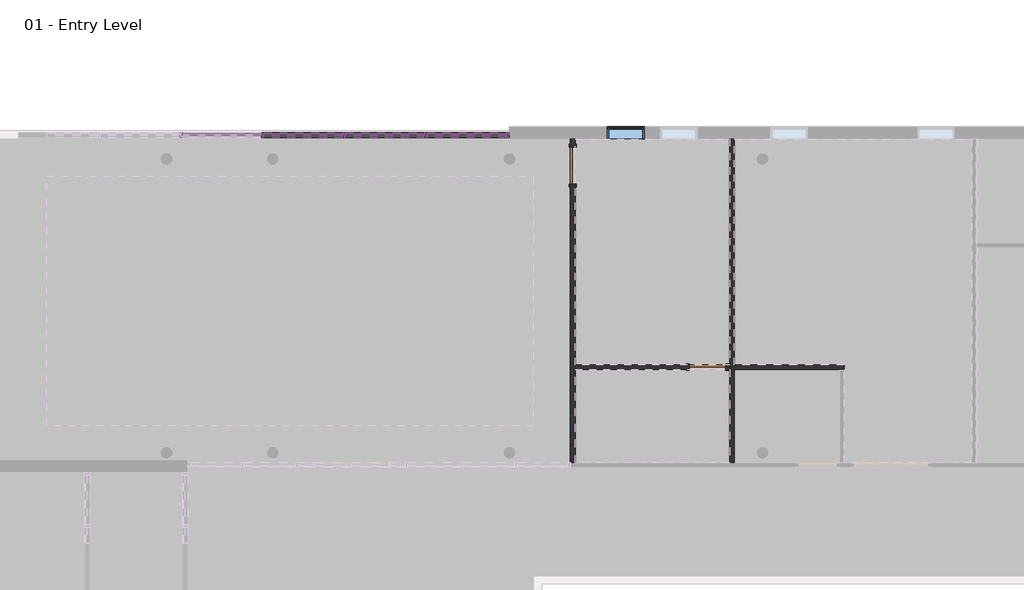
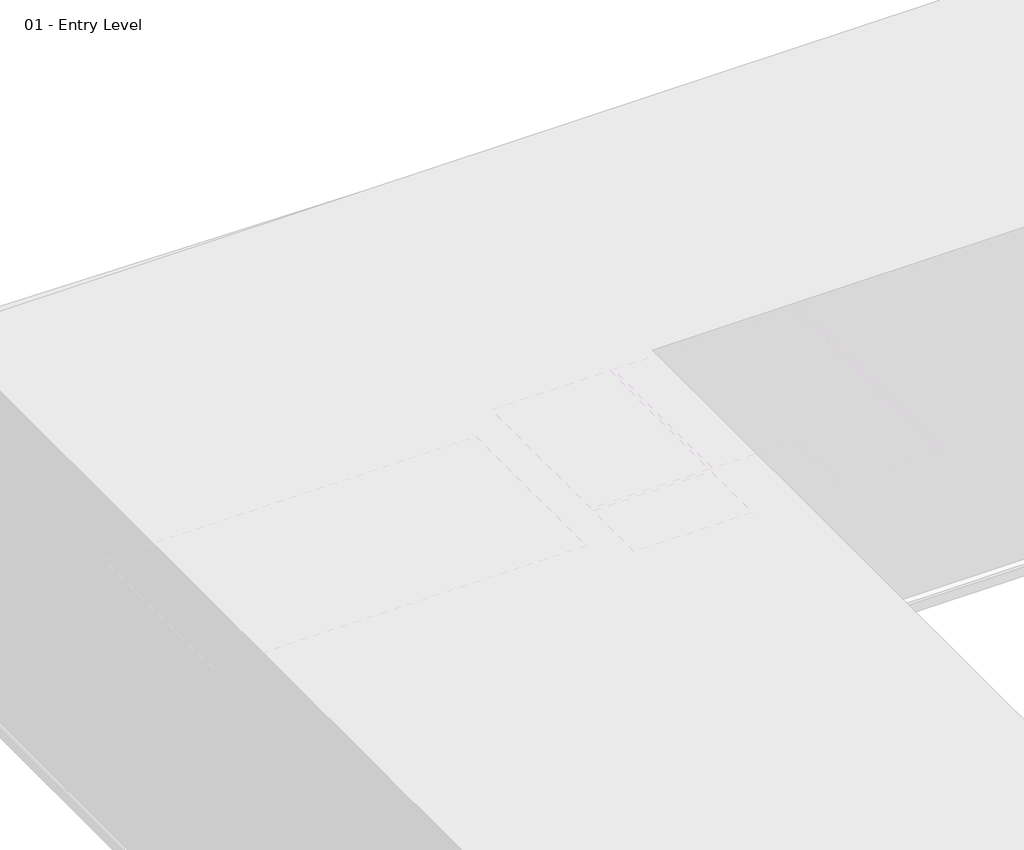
# One storey, part 29 of 35: 81 members, 36 plates, 3 walls, 2 doors, 1 window.
"""IFC4 building model written with IfcOpenShell, lengths in millimetres."""

from ifc_helpers import new_model, si_unit, origin, place, context, project, spatial, faceted_brep, transform, mapped, element, save
from components import door_e5f9f3c4, member_2b49869a, member_75074519, member_391b434c, member_9e90ae50, system_panel_glazed_1b9d6098, system_panel_glazed_70da479d, system_panel_solid_b376696c, system_panel_solid_77e8b053, window_dfee3f32

model = new_model("IFC4")

# Units and contexts
model_context = context("Model", 3, world=origin())
ifc_project = project(units=[si_unit("LENGTHUNIT", "METRE", prefix="MILLI")], contexts=[model_context])

# Site, building, storey
site = spatial("IfcSite", under=ifc_project)
building = spatial("IfcBuilding", under=site)
storey = spatial("IfcBuildingStorey", under=building, Name="01 - Entry Level", Elevation=0.0)

# Doors
placement = place(None, origin())
door_shape = door_e5f9f3c4(model_context)
element("IfcDoor", 1, ObjectType="Single-Flush : 36\" x 84\"", at=placement, inside=storey, context=model_context, shape_type="MappedRepresentation", body=[
    mapped(door_shape, transform((21413.1207476, 48047.2, 0.0), x_axis=(1.0, 0.0, 0.0), y_axis=(0.0, 1.0, 0.0), z_axis=(0.0, 0.0, 1.0))),
])
element("IfcDoor", 2, ObjectType="Single-Flush-Dbl Acting : 36\" x 84\"", at=placement, inside=storey, context=model_context, shape_type="MappedRepresentation", body=[
    mapped(door_shape, transform((18060.3207476, 53063.7, 0.0), x_axis=(0.0, 1.0, 0.0), y_axis=(-1.0, 0.0, 0.0), z_axis=(0.0, 0.0, 1.0))),
])

# Members
member_shape = member_2b49869a(model_context)
element("IfcMember", 3, ObjectType="Rectangular Mullion : 2.5\" x 5\" rectangular", at=placement, inside=storey, context=model_context, shape_type="MappedRepresentation", body=[
    mapped(member_shape, transform((16434.7207476, 53825.7, 9753.6), x_axis=(-1.0, 0.0, 0.0), y_axis=(0.0, 1.0, 0.0), z_axis=(0.0, 0.0, -1.0))),
])
element("IfcMember", 4, ObjectType="Rectangular Mullion : 2.5\" x 5\" rectangular", at=placement, inside=storey, context=model_context, shape_type="MappedRepresentation", body=[
    mapped(member_shape, transform((14402.7207476, 53825.7, 9753.6), x_axis=(-1.0, 0.0, 0.0), y_axis=(0.0, 1.0, 0.0), z_axis=(0.0, 0.0, -1.0))),
])
element("IfcMember", 5, ObjectType="Rectangular Mullion : 2.5\" x 5\" rectangular", at=placement, inside=storey, context=model_context, shape_type="MappedRepresentation", body=[
    mapped(member_shape, transform((12370.7207476, 53825.7, 9753.6), x_axis=(-1.0, 0.0, 0.0), y_axis=(0.0, 1.0, 0.0), z_axis=(0.0, 0.0, -1.0))),
])
element("IfcMember", 6, ObjectType="Rectangular Mullion : 2.5\" x 5\" rectangular", at=placement, inside=storey, context=model_context, shape_type="MappedRepresentation", body=[
    mapped(member_shape, transform((10338.7207476, 53825.7, 9753.6), x_axis=(-1.0, 0.0, 0.0), y_axis=(0.0, 1.0, 0.0), z_axis=(0.0, 0.0, -1.0))),
])
element("IfcMember", 7, ObjectType="Rectangular Mullion : 2.5\" x 5\" rectangular", at=placement, inside=storey, context=model_context, shape_type="MappedRepresentation", body=[
    mapped(member_shape, transform((8306.7207476, 53825.7, 9753.6), x_axis=(-1.0, 0.0, 0.0), y_axis=(0.0, 1.0, 0.0), z_axis=(0.0, 0.0, -1.0))),
])
member_2_shape = member_75074519(model_context)
element("IfcMember", 8, ObjectType="Rectangular Mullion : 2.5\" x 5\" rectangular", at=placement, inside=storey, context=model_context, shape_type="MappedRepresentation", body=[
    mapped(member_2_shape, transform((16485.5207476, 53825.7, 10972.8), x_axis=(1.0, 0.0, 0.0), y_axis=(0.0, 1.0, 0.0), z_axis=(0.0, 0.0, 1.0))),
])
member_3_shape = member_391b434c(model_context)
element("IfcMember", 9, ObjectType="Rectangular Mullion : 2.5\" x 5\" rectangular", at=placement, inside=storey, context=model_context, shape_type="MappedRepresentation", body=[
    mapped(member_3_shape, transform((14434.4707476, 53825.7, 10972.8), x_axis=(0.0, 0.0, 1.0), y_axis=(0.0, 1.0, 0.0), z_axis=(-1.0, 0.0, 0.0))),
])
element("IfcMember", 10, ObjectType="Rectangular Mullion : 2.5\" x 5\" rectangular", at=placement, inside=storey, context=model_context, shape_type="MappedRepresentation", body=[
    mapped(member_3_shape, transform((12402.4707476, 53825.7, 10972.8), x_axis=(0.0, 0.0, 1.0), y_axis=(0.0, 1.0, 0.0), z_axis=(-1.0, 0.0, 0.0))),
])
element("IfcMember", 11, ObjectType="Rectangular Mullion : 2.5\" x 5\" rectangular", at=placement, inside=storey, context=model_context, shape_type="MappedRepresentation", body=[
    mapped(member_3_shape, transform((10370.4707476, 53825.7, 10972.8), x_axis=(0.0, 0.0, 1.0), y_axis=(0.0, 1.0, 0.0), z_axis=(-1.0, 0.0, 0.0))),
])
element("IfcMember", 12, ObjectType="Rectangular Mullion : 2.5\" x 5\" rectangular", at=placement, inside=storey, context=model_context, shape_type="MappedRepresentation", body=[
    mapped(member_3_shape, transform((16402.9707476, 53825.7, 0.0), x_axis=(0.0, 0.0, -1.0), y_axis=(0.0, 1.0, 0.0), z_axis=(1.0, 0.0, 0.0))),
])
element("IfcMember", 13, ObjectType="Rectangular Mullion : 2.5\" x 5\" rectangular", at=placement, inside=storey, context=model_context, shape_type="MappedRepresentation", body=[
    mapped(member_3_shape, transform((14370.9707476, 53825.7, 0.0), x_axis=(0.0, 0.0, -1.0), y_axis=(0.0, 1.0, 0.0), z_axis=(1.0, 0.0, 0.0))),
])
element("IfcMember", 14, ObjectType="Rectangular Mullion : 2.5\" x 5\" rectangular", at=placement, inside=storey, context=model_context, shape_type="MappedRepresentation", body=[
    mapped(member_3_shape, transform((12338.9707476, 53825.7, 0.0), x_axis=(0.0, 0.0, -1.0), y_axis=(0.0, 1.0, 0.0), z_axis=(1.0, 0.0, 0.0))),
])
element("IfcMember", 15, ObjectType="Rectangular Mullion : 2.5\" x 5\" rectangular", at=placement, inside=storey, context=model_context, shape_type="MappedRepresentation", body=[
    mapped(member_3_shape, transform((10306.9707476, 53825.7, 0.0), x_axis=(0.0, 0.0, -1.0), y_axis=(0.0, 1.0, 0.0), z_axis=(1.0, 0.0, 0.0))),
])
member_4_shape = member_9e90ae50(model_context)
element("IfcMember", 16, ObjectType="Rectangular Mullion : 2.5\" x 5\" rectangular", at=placement, inside=storey, context=model_context, shape_type="MappedRepresentation", body=[
    mapped(member_4_shape, transform((14434.4707476, 53825.7, 1219.2), x_axis=(0.0, 0.0, 1.0), y_axis=(0.0, 1.0, 0.0), z_axis=(-1.0, 0.0, 0.0))),
])
element("IfcMember", 17, ObjectType="Rectangular Mullion : 2.5\" x 5\" rectangular", at=placement, inside=storey, context=model_context, shape_type="MappedRepresentation", body=[
    mapped(member_4_shape, transform((12402.4707476, 53825.7, 1219.2), x_axis=(0.0, 0.0, 1.0), y_axis=(0.0, 1.0, 0.0), z_axis=(-1.0, 0.0, 0.0))),
])
element("IfcMember", 18, ObjectType="Rectangular Mullion : 2.5\" x 5\" rectangular", at=placement, inside=storey, context=model_context, shape_type="MappedRepresentation", body=[
    mapped(member_4_shape, transform((10370.4707476, 53825.7, 1219.2), x_axis=(0.0, 0.0, 1.0), y_axis=(0.0, 1.0, 0.0), z_axis=(-1.0, 0.0, 0.0))),
])
element("IfcMember", 19, ObjectType="Rectangular Mullion : 2.5\" x 5\" rectangular", at=placement, inside=storey, context=model_context, shape_type="MappedRepresentation", body=[
    mapped(member_4_shape, transform((14434.4707476, 53825.7, 2438.4), x_axis=(0.0, 0.0, 1.0), y_axis=(0.0, 1.0, 0.0), z_axis=(-1.0, 0.0, 0.0))),
])
element("IfcMember", 20, ObjectType="Rectangular Mullion : 2.5\" x 5\" rectangular", at=placement, inside=storey, context=model_context, shape_type="MappedRepresentation", body=[
    mapped(member_4_shape, transform((12402.4707476, 53825.7, 2438.4), x_axis=(0.0, 0.0, 1.0), y_axis=(0.0, 1.0, 0.0), z_axis=(-1.0, 0.0, 0.0))),
])
element("IfcMember", 21, ObjectType="Rectangular Mullion : 2.5\" x 5\" rectangular", at=placement, inside=storey, context=model_context, shape_type="MappedRepresentation", body=[
    mapped(member_4_shape, transform((10370.4707476, 53825.7, 2438.4), x_axis=(0.0, 0.0, 1.0), y_axis=(0.0, 1.0, 0.0), z_axis=(-1.0, 0.0, 0.0))),
])
element("IfcMember", 22, ObjectType="Rectangular Mullion : 2.5\" x 5\" rectangular", at=placement, inside=storey, context=model_context, shape_type="MappedRepresentation", body=[
    mapped(member_4_shape, transform((14434.4707476, 53825.7, 3657.6), x_axis=(0.0, 0.0, 1.0), y_axis=(0.0, 1.0, 0.0), z_axis=(-1.0, 0.0, 0.0))),
])
element("IfcMember", 23, ObjectType="Rectangular Mullion : 2.5\" x 5\" rectangular", at=placement, inside=storey, context=model_context, shape_type="MappedRepresentation", body=[
    mapped(member_4_shape, transform((12402.4707476, 53825.7, 3657.6), x_axis=(0.0, 0.0, 1.0), y_axis=(0.0, 1.0, 0.0), z_axis=(-1.0, 0.0, 0.0))),
])
element("IfcMember", 24, ObjectType="Rectangular Mullion : 2.5\" x 5\" rectangular", at=placement, inside=storey, context=model_context, shape_type="MappedRepresentation", body=[
    mapped(member_4_shape, transform((10370.4707476, 53825.7, 3657.6), x_axis=(0.0, 0.0, 1.0), y_axis=(0.0, 1.0, 0.0), z_axis=(-1.0, 0.0, 0.0))),
])
element("IfcMember", 25, ObjectType="Rectangular Mullion : 2.5\" x 5\" rectangular", at=placement, inside=storey, context=model_context, shape_type="MappedRepresentation", body=[
    mapped(member_4_shape, transform((14434.4707476, 53825.7, 4876.8), x_axis=(0.0, 0.0, 1.0), y_axis=(0.0, 1.0, 0.0), z_axis=(-1.0, 0.0, 0.0))),
])
element("IfcMember", 26, ObjectType="Rectangular Mullion : 2.5\" x 5\" rectangular", at=placement, inside=storey, context=model_context, shape_type="MappedRepresentation", body=[
    mapped(member_4_shape, transform((12402.4707476, 53825.7, 4876.8), x_axis=(0.0, 0.0, 1.0), y_axis=(0.0, 1.0, 0.0), z_axis=(-1.0, 0.0, 0.0))),
])
element("IfcMember", 27, ObjectType="Rectangular Mullion : 2.5\" x 5\" rectangular", at=placement, inside=storey, context=model_context, shape_type="MappedRepresentation", body=[
    mapped(member_4_shape, transform((10370.4707476, 53825.7, 4876.8), x_axis=(0.0, 0.0, 1.0), y_axis=(0.0, 1.0, 0.0), z_axis=(-1.0, 0.0, 0.0))),
])
element("IfcMember", 28, ObjectType="Rectangular Mullion : 2.5\" x 5\" rectangular", at=placement, inside=storey, context=model_context, shape_type="MappedRepresentation", body=[
    mapped(member_4_shape, transform((14434.4707476, 53825.7, 6096.0), x_axis=(0.0, 0.0, 1.0), y_axis=(0.0, 1.0, 0.0), z_axis=(-1.0, 0.0, 0.0))),
])
element("IfcMember", 29, ObjectType="Rectangular Mullion : 2.5\" x 5\" rectangular", at=placement, inside=storey, context=model_context, shape_type="MappedRepresentation", body=[
    mapped(member_4_shape, transform((12402.4707476, 53825.7, 6096.0), x_axis=(0.0, 0.0, 1.0), y_axis=(0.0, 1.0, 0.0), z_axis=(-1.0, 0.0, 0.0))),
])
element("IfcMember", 30, ObjectType="Rectangular Mullion : 2.5\" x 5\" rectangular", at=placement, inside=storey, context=model_context, shape_type="MappedRepresentation", body=[
    mapped(member_4_shape, transform((10370.4707476, 53825.7, 6096.0), x_axis=(0.0, 0.0, 1.0), y_axis=(0.0, 1.0, 0.0), z_axis=(-1.0, 0.0, 0.0))),
])
element("IfcMember", 31, ObjectType="Rectangular Mullion : 2.5\" x 5\" rectangular", at=placement, inside=storey, context=model_context, shape_type="MappedRepresentation", body=[
    mapped(member_4_shape, transform((14434.4707476, 53825.7, 7315.2), x_axis=(0.0, 0.0, 1.0), y_axis=(0.0, 1.0, 0.0), z_axis=(-1.0, 0.0, 0.0))),
])
element("IfcMember", 32, ObjectType="Rectangular Mullion : 2.5\" x 5\" rectangular", at=placement, inside=storey, context=model_context, shape_type="MappedRepresentation", body=[
    mapped(member_4_shape, transform((12402.4707476, 53825.7, 7315.2), x_axis=(0.0, 0.0, 1.0), y_axis=(0.0, 1.0, 0.0), z_axis=(-1.0, 0.0, 0.0))),
])
element("IfcMember", 33, ObjectType="Rectangular Mullion : 2.5\" x 5\" rectangular", at=placement, inside=storey, context=model_context, shape_type="MappedRepresentation", body=[
    mapped(member_4_shape, transform((10370.4707476, 53825.7, 7315.2), x_axis=(0.0, 0.0, 1.0), y_axis=(0.0, 1.0, 0.0), z_axis=(-1.0, 0.0, 0.0))),
])
element("IfcMember", 34, ObjectType="Rectangular Mullion : 2.5\" x 5\" rectangular", at=placement, inside=storey, context=model_context, shape_type="MappedRepresentation", body=[
    mapped(member_4_shape, transform((14434.4707476, 53825.7, 8534.4), x_axis=(0.0, 0.0, 1.0), y_axis=(0.0, 1.0, 0.0), z_axis=(-1.0, 0.0, 0.0))),
])
element("IfcMember", 35, ObjectType="Rectangular Mullion : 2.5\" x 5\" rectangular", at=placement, inside=storey, context=model_context, shape_type="MappedRepresentation", body=[
    mapped(member_4_shape, transform((12402.4707476, 53825.7, 8534.4), x_axis=(0.0, 0.0, 1.0), y_axis=(0.0, 1.0, 0.0), z_axis=(-1.0, 0.0, 0.0))),
])
element("IfcMember", 36, ObjectType="Rectangular Mullion : 2.5\" x 5\" rectangular", at=placement, inside=storey, context=model_context, shape_type="MappedRepresentation", body=[
    mapped(member_4_shape, transform((10370.4707476, 53825.7, 8534.4), x_axis=(0.0, 0.0, 1.0), y_axis=(0.0, 1.0, 0.0), z_axis=(-1.0, 0.0, 0.0))),
])
element("IfcMember", 37, ObjectType="Rectangular Mullion : 2.5\" x 5\" rectangular", at=placement, inside=storey, context=model_context, shape_type="MappedRepresentation", body=[
    mapped(member_4_shape, transform((14434.4707476, 53825.7, 9753.6), x_axis=(0.0, 0.0, 1.0), y_axis=(0.0, 1.0, 0.0), z_axis=(-1.0, 0.0, 0.0))),
])
element("IfcMember", 38, ObjectType="Rectangular Mullion : 2.5\" x 5\" rectangular", at=placement, inside=storey, context=model_context, shape_type="MappedRepresentation", body=[
    mapped(member_4_shape, transform((12402.4707476, 53825.7, 9753.6), x_axis=(0.0, 0.0, 1.0), y_axis=(0.0, 1.0, 0.0), z_axis=(-1.0, 0.0, 0.0))),
])
element("IfcMember", 39, ObjectType="Rectangular Mullion : 2.5\" x 5\" rectangular", at=placement, inside=storey, context=model_context, shape_type="MappedRepresentation", body=[
    mapped(member_4_shape, transform((10370.4707476, 53825.7, 9753.6), x_axis=(0.0, 0.0, 1.0), y_axis=(0.0, 1.0, 0.0), z_axis=(-1.0, 0.0, 0.0))),
])
element("IfcMember", 40, ObjectType="Rectangular Mullion : 2.5\" x 5\" rectangular", at=placement, inside=storey, context=model_context, shape_type="MappedRepresentation", body=[
    mapped(member_shape, transform((16434.7207476, 53825.7, 0.0), x_axis=(-1.0, 0.0, 0.0), y_axis=(0.0, 1.0, 0.0), z_axis=(0.0, 0.0, -1.0))),
])
element("IfcMember", 41, ObjectType="Rectangular Mullion : 2.5\" x 5\" rectangular", at=placement, inside=storey, context=model_context, shape_type="MappedRepresentation", body=[
    mapped(member_shape, transform((14402.7207476, 53825.7, 0.0), x_axis=(-1.0, 0.0, 0.0), y_axis=(0.0, 1.0, 0.0), z_axis=(0.0, 0.0, -1.0))),
])
element("IfcMember", 42, ObjectType="Rectangular Mullion : 2.5\" x 5\" rectangular", at=placement, inside=storey, context=model_context, shape_type="MappedRepresentation", body=[
    mapped(member_shape, transform((12370.7207476, 53825.7, 0.0), x_axis=(-1.0, 0.0, 0.0), y_axis=(0.0, 1.0, 0.0), z_axis=(0.0, 0.0, -1.0))),
])
element("IfcMember", 43, ObjectType="Rectangular Mullion : 2.5\" x 5\" rectangular", at=placement, inside=storey, context=model_context, shape_type="MappedRepresentation", body=[
    mapped(member_shape, transform((10338.7207476, 53825.7, 0.0), x_axis=(-1.0, 0.0, 0.0), y_axis=(0.0, 1.0, 0.0), z_axis=(0.0, 0.0, -1.0))),
])
element("IfcMember", 44, ObjectType="Rectangular Mullion : 2.5\" x 5\" rectangular", at=placement, inside=storey, context=model_context, shape_type="MappedRepresentation", body=[
    mapped(member_shape, transform((16434.7207476, 53825.7, 1219.2), x_axis=(-1.0, 0.0, 0.0), y_axis=(0.0, 1.0, 0.0), z_axis=(0.0, 0.0, -1.0))),
])
element("IfcMember", 45, ObjectType="Rectangular Mullion : 2.5\" x 5\" rectangular", at=placement, inside=storey, context=model_context, shape_type="MappedRepresentation", body=[
    mapped(member_shape, transform((14402.7207476, 53825.7, 1219.2), x_axis=(-1.0, 0.0, 0.0), y_axis=(0.0, 1.0, 0.0), z_axis=(0.0, 0.0, -1.0))),
])
element("IfcMember", 46, ObjectType="Rectangular Mullion : 2.5\" x 5\" rectangular", at=placement, inside=storey, context=model_context, shape_type="MappedRepresentation", body=[
    mapped(member_shape, transform((12370.7207476, 53825.7, 1219.2), x_axis=(-1.0, 0.0, 0.0), y_axis=(0.0, 1.0, 0.0), z_axis=(0.0, 0.0, -1.0))),
])
element("IfcMember", 47, ObjectType="Rectangular Mullion : 2.5\" x 5\" rectangular", at=placement, inside=storey, context=model_context, shape_type="MappedRepresentation", body=[
    mapped(member_shape, transform((10338.7207476, 53825.7, 1219.2), x_axis=(-1.0, 0.0, 0.0), y_axis=(0.0, 1.0, 0.0), z_axis=(0.0, 0.0, -1.0))),
])
element("IfcMember", 48, ObjectType="Rectangular Mullion : 2.5\" x 5\" rectangular", at=placement, inside=storey, context=model_context, shape_type="MappedRepresentation", body=[
    mapped(member_shape, transform((16434.7207476, 53825.7, 2438.4), x_axis=(-1.0, 0.0, 0.0), y_axis=(0.0, 1.0, 0.0), z_axis=(0.0, 0.0, -1.0))),
])
element("IfcMember", 49, ObjectType="Rectangular Mullion : 2.5\" x 5\" rectangular", at=placement, inside=storey, context=model_context, shape_type="MappedRepresentation", body=[
    mapped(member_shape, transform((14402.7207476, 53825.7, 2438.4), x_axis=(-1.0, 0.0, 0.0), y_axis=(0.0, 1.0, 0.0), z_axis=(0.0, 0.0, -1.0))),
])
element("IfcMember", 50, ObjectType="Rectangular Mullion : 2.5\" x 5\" rectangular", at=placement, inside=storey, context=model_context, shape_type="MappedRepresentation", body=[
    mapped(member_shape, transform((12370.7207476, 53825.7, 2438.4), x_axis=(-1.0, 0.0, 0.0), y_axis=(0.0, 1.0, 0.0), z_axis=(0.0, 0.0, -1.0))),
])
element("IfcMember", 51, ObjectType="Rectangular Mullion : 2.5\" x 5\" rectangular", at=placement, inside=storey, context=model_context, shape_type="MappedRepresentation", body=[
    mapped(member_shape, transform((10338.7207476, 53825.7, 2438.4), x_axis=(-1.0, 0.0, 0.0), y_axis=(0.0, 1.0, 0.0), z_axis=(0.0, 0.0, -1.0))),
])
element("IfcMember", 52, ObjectType="Rectangular Mullion : 2.5\" x 5\" rectangular", at=placement, inside=storey, context=model_context, shape_type="MappedRepresentation", body=[
    mapped(member_shape, transform((16434.7207476, 53825.7, 3657.6), x_axis=(-1.0, 0.0, 0.0), y_axis=(0.0, 1.0, 0.0), z_axis=(0.0, 0.0, -1.0))),
])
element("IfcMember", 53, ObjectType="Rectangular Mullion : 2.5\" x 5\" rectangular", at=placement, inside=storey, context=model_context, shape_type="MappedRepresentation", body=[
    mapped(member_shape, transform((14402.7207476, 53825.7, 3657.6), x_axis=(-1.0, 0.0, 0.0), y_axis=(0.0, 1.0, 0.0), z_axis=(0.0, 0.0, -1.0))),
])
element("IfcMember", 54, ObjectType="Rectangular Mullion : 2.5\" x 5\" rectangular", at=placement, inside=storey, context=model_context, shape_type="MappedRepresentation", body=[
    mapped(member_shape, transform((12370.7207476, 53825.7, 3657.6), x_axis=(-1.0, 0.0, 0.0), y_axis=(0.0, 1.0, 0.0), z_axis=(0.0, 0.0, -1.0))),
])
element("IfcMember", 55, ObjectType="Rectangular Mullion : 2.5\" x 5\" rectangular", at=placement, inside=storey, context=model_context, shape_type="MappedRepresentation", body=[
    mapped(member_shape, transform((10338.7207476, 53825.7, 3657.6), x_axis=(-1.0, 0.0, 0.0), y_axis=(0.0, 1.0, 0.0), z_axis=(0.0, 0.0, -1.0))),
])
element("IfcMember", 56, ObjectType="Rectangular Mullion : 2.5\" x 5\" rectangular", at=placement, inside=storey, context=model_context, shape_type="MappedRepresentation", body=[
    mapped(member_shape, transform((16434.7207476, 53825.7, 4876.8), x_axis=(-1.0, 0.0, 0.0), y_axis=(0.0, 1.0, 0.0), z_axis=(0.0, 0.0, -1.0))),
])
element("IfcMember", 57, ObjectType="Rectangular Mullion : 2.5\" x 5\" rectangular", at=placement, inside=storey, context=model_context, shape_type="MappedRepresentation", body=[
    mapped(member_shape, transform((14402.7207476, 53825.7, 4876.8), x_axis=(-1.0, 0.0, 0.0), y_axis=(0.0, 1.0, 0.0), z_axis=(0.0, 0.0, -1.0))),
])
element("IfcMember", 58, ObjectType="Rectangular Mullion : 2.5\" x 5\" rectangular", at=placement, inside=storey, context=model_context, shape_type="MappedRepresentation", body=[
    mapped(member_shape, transform((12370.7207476, 53825.7, 4876.8), x_axis=(-1.0, 0.0, 0.0), y_axis=(0.0, 1.0, 0.0), z_axis=(0.0, 0.0, -1.0))),
])
element("IfcMember", 59, ObjectType="Rectangular Mullion : 2.5\" x 5\" rectangular", at=placement, inside=storey, context=model_context, shape_type="MappedRepresentation", body=[
    mapped(member_shape, transform((10338.7207476, 53825.7, 4876.8), x_axis=(-1.0, 0.0, 0.0), y_axis=(0.0, 1.0, 0.0), z_axis=(0.0, 0.0, -1.0))),
])
element("IfcMember", 60, ObjectType="Rectangular Mullion : 2.5\" x 5\" rectangular", at=placement, inside=storey, context=model_context, shape_type="MappedRepresentation", body=[
    mapped(member_shape, transform((8306.7207476, 53825.7, 4876.8), x_axis=(-1.0, 0.0, 0.0), y_axis=(0.0, 1.0, 0.0), z_axis=(0.0, 0.0, -1.0))),
])
element("IfcMember", 61, ObjectType="Rectangular Mullion : 2.5\" x 5\" rectangular", at=placement, inside=storey, context=model_context, shape_type="MappedRepresentation", body=[
    mapped(member_shape, transform((16434.7207476, 53825.7, 6096.0), x_axis=(-1.0, 0.0, 0.0), y_axis=(0.0, 1.0, 0.0), z_axis=(0.0, 0.0, -1.0))),
])
element("IfcMember", 62, ObjectType="Rectangular Mullion : 2.5\" x 5\" rectangular", at=placement, inside=storey, context=model_context, shape_type="MappedRepresentation", body=[
    mapped(member_shape, transform((14402.7207476, 53825.7, 6096.0), x_axis=(-1.0, 0.0, 0.0), y_axis=(0.0, 1.0, 0.0), z_axis=(0.0, 0.0, -1.0))),
])
element("IfcMember", 63, ObjectType="Rectangular Mullion : 2.5\" x 5\" rectangular", at=placement, inside=storey, context=model_context, shape_type="MappedRepresentation", body=[
    mapped(member_shape, transform((12370.7207476, 53825.7, 6096.0), x_axis=(-1.0, 0.0, 0.0), y_axis=(0.0, 1.0, 0.0), z_axis=(0.0, 0.0, -1.0))),
])
element("IfcMember", 64, ObjectType="Rectangular Mullion : 2.5\" x 5\" rectangular", at=placement, inside=storey, context=model_context, shape_type="MappedRepresentation", body=[
    mapped(member_shape, transform((10338.7207476, 53825.7, 6096.0), x_axis=(-1.0, 0.0, 0.0), y_axis=(0.0, 1.0, 0.0), z_axis=(0.0, 0.0, -1.0))),
])
element("IfcMember", 65, ObjectType="Rectangular Mullion : 2.5\" x 5\" rectangular", at=placement, inside=storey, context=model_context, shape_type="MappedRepresentation", body=[
    mapped(member_shape, transform((8306.7207476, 53825.7, 6096.0), x_axis=(-1.0, 0.0, 0.0), y_axis=(0.0, 1.0, 0.0), z_axis=(0.0, 0.0, -1.0))),
])
element("IfcMember", 66, ObjectType="Rectangular Mullion : 2.5\" x 5\" rectangular", at=placement, inside=storey, context=model_context, shape_type="MappedRepresentation", body=[
    mapped(member_shape, transform((16434.7207476, 53825.7, 7315.2), x_axis=(-1.0, 0.0, 0.0), y_axis=(0.0, 1.0, 0.0), z_axis=(0.0, 0.0, -1.0))),
])
element("IfcMember", 67, ObjectType="Rectangular Mullion : 2.5\" x 5\" rectangular", at=placement, inside=storey, context=model_context, shape_type="MappedRepresentation", body=[
    mapped(member_shape, transform((14402.7207476, 53825.7, 7315.2), x_axis=(-1.0, 0.0, 0.0), y_axis=(0.0, 1.0, 0.0), z_axis=(0.0, 0.0, -1.0))),
])
element("IfcMember", 68, ObjectType="Rectangular Mullion : 2.5\" x 5\" rectangular", at=placement, inside=storey, context=model_context, shape_type="MappedRepresentation", body=[
    mapped(member_shape, transform((12370.7207476, 53825.7, 7315.2), x_axis=(-1.0, 0.0, 0.0), y_axis=(0.0, 1.0, 0.0), z_axis=(0.0, 0.0, -1.0))),
])
element("IfcMember", 69, ObjectType="Rectangular Mullion : 2.5\" x 5\" rectangular", at=placement, inside=storey, context=model_context, shape_type="MappedRepresentation", body=[
    mapped(member_shape, transform((10338.7207476, 53825.7, 7315.2), x_axis=(-1.0, 0.0, 0.0), y_axis=(0.0, 1.0, 0.0), z_axis=(0.0, 0.0, -1.0))),
])
element("IfcMember", 70, ObjectType="Rectangular Mullion : 2.5\" x 5\" rectangular", at=placement, inside=storey, context=model_context, shape_type="MappedRepresentation", body=[
    mapped(member_shape, transform((8306.7207476, 53825.7, 7315.2), x_axis=(-1.0, 0.0, 0.0), y_axis=(0.0, 1.0, 0.0), z_axis=(0.0, 0.0, -1.0))),
])
element("IfcMember", 71, ObjectType="Rectangular Mullion : 2.5\" x 5\" rectangular", at=placement, inside=storey, context=model_context, shape_type="MappedRepresentation", body=[
    mapped(member_shape, transform((16434.7207476, 53825.7, 8534.4), x_axis=(-1.0, 0.0, 0.0), y_axis=(0.0, 1.0, 0.0), z_axis=(0.0, 0.0, -1.0))),
])
element("IfcMember", 72, ObjectType="Rectangular Mullion : 2.5\" x 5\" rectangular", at=placement, inside=storey, context=model_context, shape_type="MappedRepresentation", body=[
    mapped(member_shape, transform((14402.7207476, 53825.7, 8534.4), x_axis=(-1.0, 0.0, 0.0), y_axis=(0.0, 1.0, 0.0), z_axis=(0.0, 0.0, -1.0))),
])
element("IfcMember", 73, ObjectType="Rectangular Mullion : 2.5\" x 5\" rectangular", at=placement, inside=storey, context=model_context, shape_type="MappedRepresentation", body=[
    mapped(member_shape, transform((12370.7207476, 53825.7, 8534.4), x_axis=(-1.0, 0.0, 0.0), y_axis=(0.0, 1.0, 0.0), z_axis=(0.0, 0.0, -1.0))),
])
element("IfcMember", 74, ObjectType="Rectangular Mullion : 2.5\" x 5\" rectangular", at=placement, inside=storey, context=model_context, shape_type="MappedRepresentation", body=[
    mapped(member_shape, transform((10338.7207476, 53825.7, 8534.4), x_axis=(-1.0, 0.0, 0.0), y_axis=(0.0, 1.0, 0.0), z_axis=(0.0, 0.0, -1.0))),
])
element("IfcMember", 75, ObjectType="Rectangular Mullion : 2.5\" x 5\" rectangular", at=placement, inside=storey, context=model_context, shape_type="MappedRepresentation", body=[
    mapped(member_shape, transform((8306.7207476, 53825.7, 8534.4), x_axis=(-1.0, 0.0, 0.0), y_axis=(0.0, 1.0, 0.0), z_axis=(0.0, 0.0, -1.0))),
])
element("IfcMember", 76, ObjectType="Rectangular Mullion : 2.5\" x 5\" rectangular", at=placement, inside=storey, context=model_context, shape_type="MappedRepresentation", body=[
    mapped(member_2_shape, transform((16485.5207476, 53825.7, 1219.2), x_axis=(1.0, 0.0, 0.0), y_axis=(0.0, 1.0, 0.0), z_axis=(0.0, 0.0, 1.0))),
])
element("IfcMember", 77, ObjectType="Rectangular Mullion : 2.5\" x 5\" rectangular", at=placement, inside=storey, context=model_context, shape_type="MappedRepresentation", body=[
    mapped(member_2_shape, transform((16485.5207476, 53825.7, 2438.4), x_axis=(1.0, 0.0, 0.0), y_axis=(0.0, 1.0, 0.0), z_axis=(0.0, 0.0, 1.0))),
])
element("IfcMember", 78, ObjectType="Rectangular Mullion : 2.5\" x 5\" rectangular", at=placement, inside=storey, context=model_context, shape_type="MappedRepresentation", body=[
    mapped(member_2_shape, transform((16485.5207476, 53825.7, 3657.6), x_axis=(1.0, 0.0, 0.0), y_axis=(0.0, 1.0, 0.0), z_axis=(0.0, 0.0, 1.0))),
])
element("IfcMember", 79, ObjectType="Rectangular Mullion : 2.5\" x 5\" rectangular", at=placement, inside=storey, context=model_context, shape_type="MappedRepresentation", body=[
    mapped(member_2_shape, transform((16485.5207476, 53825.7, 4876.8), x_axis=(1.0, 0.0, 0.0), y_axis=(0.0, 1.0, 0.0), z_axis=(0.0, 0.0, 1.0))),
])
element("IfcMember", 80, ObjectType="Rectangular Mullion : 2.5\" x 5\" rectangular", at=placement, inside=storey, context=model_context, shape_type="MappedRepresentation", body=[
    mapped(member_2_shape, transform((16485.5207476, 53825.7, 6096.0), x_axis=(1.0, 0.0, 0.0), y_axis=(0.0, 1.0, 0.0), z_axis=(0.0, 0.0, 1.0))),
])
element("IfcMember", 81, ObjectType="Rectangular Mullion : 2.5\" x 5\" rectangular", at=placement, inside=storey, context=model_context, shape_type="MappedRepresentation", body=[
    mapped(member_2_shape, transform((16485.5207476, 53825.7, 7315.2), x_axis=(1.0, 0.0, 0.0), y_axis=(0.0, 1.0, 0.0), z_axis=(0.0, 0.0, 1.0))),
])
element("IfcMember", 82, ObjectType="Rectangular Mullion : 2.5\" x 5\" rectangular", at=placement, inside=storey, context=model_context, shape_type="MappedRepresentation", body=[
    mapped(member_2_shape, transform((16485.5207476, 53825.7, 8534.4), x_axis=(1.0, 0.0, 0.0), y_axis=(0.0, 1.0, 0.0), z_axis=(0.0, 0.0, 1.0))),
])
element("IfcMember", 83, ObjectType="Rectangular Mullion : 2.5\" x 5\" rectangular", at=placement, inside=storey, context=model_context, shape_type="MappedRepresentation", body=[
    mapped(member_2_shape, transform((16485.5207476, 53825.7, 9753.6), x_axis=(1.0, 0.0, 0.0), y_axis=(0.0, 1.0, 0.0), z_axis=(0.0, 0.0, 1.0))),
])

# Plates
system_panel_glazed_shape = system_panel_glazed_1b9d6098(model_context)
element("IfcPlate", 84, ObjectType="System Panel : Glazed", at=placement, inside=storey, context=model_context, shape_type="MappedRepresentation", body=[
    mapped(system_panel_glazed_shape, transform((15418.7207476, 53825.7, 63.5), x_axis=(-1.0, 0.0, 0.0), y_axis=(0.0, -1.0, 0.0), z_axis=(0.0, 0.0, 1.0))),
])
element("IfcPlate", 85, ObjectType="System Panel : Glazed", at=placement, inside=storey, context=model_context, shape_type="MappedRepresentation", body=[
    mapped(system_panel_glazed_shape, transform((13386.7207476, 53825.7, 63.5), x_axis=(-1.0, 0.0, 0.0), y_axis=(0.0, -1.0, 0.0), z_axis=(0.0, 0.0, 1.0))),
])
element("IfcPlate", 86, ObjectType="System Panel : Glazed", at=placement, inside=storey, context=model_context, shape_type="MappedRepresentation", body=[
    mapped(system_panel_glazed_shape, transform((11354.7207476, 53825.7, 63.5), x_axis=(-1.0, 0.0, 0.0), y_axis=(0.0, -1.0, 0.0), z_axis=(0.0, 0.0, 1.0))),
])
element("IfcPlate", 87, ObjectType="System Panel : Glazed", at=placement, inside=storey, context=model_context, shape_type="MappedRepresentation", body=[
    mapped(system_panel_glazed_shape, transform((9322.7207476, 53825.7, 63.5), x_axis=(-1.0, 0.0, 0.0), y_axis=(0.0, -1.0, 0.0), z_axis=(0.0, 0.0, 1.0))),
])
system_panel_glazed_2_shape = system_panel_glazed_70da479d(model_context)
element("IfcPlate", 88, ObjectType="System Panel : Glazed", at=placement, inside=storey, context=model_context, shape_type="MappedRepresentation", body=[
    mapped(system_panel_glazed_2_shape, transform((15418.7207476, 53825.7, 1250.95), x_axis=(-1.0, 0.0, 0.0), y_axis=(0.0, -1.0, 0.0), z_axis=(0.0, 0.0, 1.0))),
])
element("IfcPlate", 89, ObjectType="System Panel : Glazed", at=placement, inside=storey, context=model_context, shape_type="MappedRepresentation", body=[
    mapped(system_panel_glazed_2_shape, transform((13386.7207476, 53825.7, 1250.95), x_axis=(-1.0, 0.0, 0.0), y_axis=(0.0, -1.0, 0.0), z_axis=(0.0, 0.0, 1.0))),
])
element("IfcPlate", 90, ObjectType="System Panel : Glazed", at=placement, inside=storey, context=model_context, shape_type="MappedRepresentation", body=[
    mapped(system_panel_glazed_2_shape, transform((11354.7207476, 53825.7, 1250.95), x_axis=(-1.0, 0.0, 0.0), y_axis=(0.0, -1.0, 0.0), z_axis=(0.0, 0.0, 1.0))),
])
element("IfcPlate", 91, ObjectType="System Panel : Glazed", at=placement, inside=storey, context=model_context, shape_type="MappedRepresentation", body=[
    mapped(system_panel_glazed_2_shape, transform((9322.7207476, 53825.7, 1250.95), x_axis=(-1.0, 0.0, 0.0), y_axis=(0.0, -1.0, 0.0), z_axis=(0.0, 0.0, 1.0))),
])
element("IfcPlate", 92, ObjectType="System Panel : Glazed", at=placement, inside=storey, context=model_context, shape_type="MappedRepresentation", body=[
    mapped(system_panel_glazed_2_shape, transform((15418.7207476, 53825.7, 3689.35), x_axis=(-1.0, 0.0, 0.0), y_axis=(0.0, -1.0, 0.0), z_axis=(0.0, 0.0, 1.0))),
])
element("IfcPlate", 93, ObjectType="System Panel : Glazed", at=placement, inside=storey, context=model_context, shape_type="MappedRepresentation", body=[
    mapped(system_panel_glazed_2_shape, transform((13386.7207476, 53825.7, 3689.35), x_axis=(-1.0, 0.0, 0.0), y_axis=(0.0, -1.0, 0.0), z_axis=(0.0, 0.0, 1.0))),
])
element("IfcPlate", 94, ObjectType="System Panel : Glazed", at=placement, inside=storey, context=model_context, shape_type="MappedRepresentation", body=[
    mapped(system_panel_glazed_2_shape, transform((11354.7207476, 53825.7, 3689.35), x_axis=(-1.0, 0.0, 0.0), y_axis=(0.0, -1.0, 0.0), z_axis=(0.0, 0.0, 1.0))),
])
element("IfcPlate", 95, ObjectType="System Panel : Glazed", at=placement, inside=storey, context=model_context, shape_type="MappedRepresentation", body=[
    mapped(system_panel_glazed_2_shape, transform((9322.7207476, 53825.7, 3689.35), x_axis=(-1.0, 0.0, 0.0), y_axis=(0.0, -1.0, 0.0), z_axis=(0.0, 0.0, 1.0))),
])
element("IfcPlate", 96, ObjectType="System Panel : Glazed", at=placement, inside=storey, context=model_context, shape_type="MappedRepresentation", body=[
    mapped(system_panel_glazed_2_shape, transform((15418.7207476, 53825.7, 4908.55), x_axis=(-1.0, 0.0, 0.0), y_axis=(0.0, -1.0, 0.0), z_axis=(0.0, 0.0, 1.0))),
])
element("IfcPlate", 97, ObjectType="System Panel : Glazed", at=placement, inside=storey, context=model_context, shape_type="MappedRepresentation", body=[
    mapped(system_panel_glazed_2_shape, transform((13386.7207476, 53825.7, 4908.55), x_axis=(-1.0, 0.0, 0.0), y_axis=(0.0, -1.0, 0.0), z_axis=(0.0, 0.0, 1.0))),
])
element("IfcPlate", 98, ObjectType="System Panel : Glazed", at=placement, inside=storey, context=model_context, shape_type="MappedRepresentation", body=[
    mapped(system_panel_glazed_2_shape, transform((11354.7207476, 53825.7, 4908.55), x_axis=(-1.0, 0.0, 0.0), y_axis=(0.0, -1.0, 0.0), z_axis=(0.0, 0.0, 1.0))),
])
element("IfcPlate", 99, ObjectType="System Panel : Glazed", at=placement, inside=storey, context=model_context, shape_type="MappedRepresentation", body=[
    mapped(system_panel_glazed_2_shape, transform((9322.7207476, 53825.7, 4908.55), x_axis=(-1.0, 0.0, 0.0), y_axis=(0.0, -1.0, 0.0), z_axis=(0.0, 0.0, 1.0))),
])
element("IfcPlate", 100, ObjectType="System Panel : Glazed", at=placement, inside=storey, context=model_context, shape_type="MappedRepresentation", body=[
    mapped(system_panel_glazed_2_shape, transform((15418.7207476, 53825.7, 7346.95), x_axis=(-1.0, 0.0, 0.0), y_axis=(0.0, -1.0, 0.0), z_axis=(0.0, 0.0, 1.0))),
])
element("IfcPlate", 101, ObjectType="System Panel : Glazed", at=placement, inside=storey, context=model_context, shape_type="MappedRepresentation", body=[
    mapped(system_panel_glazed_2_shape, transform((13386.7207476, 53825.7, 7346.95), x_axis=(-1.0, 0.0, 0.0), y_axis=(0.0, -1.0, 0.0), z_axis=(0.0, 0.0, 1.0))),
])
element("IfcPlate", 102, ObjectType="System Panel : Glazed", at=placement, inside=storey, context=model_context, shape_type="MappedRepresentation", body=[
    mapped(system_panel_glazed_2_shape, transform((11354.7207476, 53825.7, 7346.95), x_axis=(-1.0, 0.0, 0.0), y_axis=(0.0, -1.0, 0.0), z_axis=(0.0, 0.0, 1.0))),
])
element("IfcPlate", 103, ObjectType="System Panel : Glazed", at=placement, inside=storey, context=model_context, shape_type="MappedRepresentation", body=[
    mapped(system_panel_glazed_2_shape, transform((9322.7207476, 53825.7, 7346.95), x_axis=(-1.0, 0.0, 0.0), y_axis=(0.0, -1.0, 0.0), z_axis=(0.0, 0.0, 1.0))),
])
element("IfcPlate", 104, ObjectType="System Panel : Glazed", at=placement, inside=storey, context=model_context, shape_type="MappedRepresentation", body=[
    mapped(system_panel_glazed_2_shape, transform((15418.7207476, 53825.7, 8566.15), x_axis=(-1.0, 0.0, 0.0), y_axis=(0.0, -1.0, 0.0), z_axis=(0.0, 0.0, 1.0))),
])
element("IfcPlate", 105, ObjectType="System Panel : Glazed", at=placement, inside=storey, context=model_context, shape_type="MappedRepresentation", body=[
    mapped(system_panel_glazed_2_shape, transform((13386.7207476, 53825.7, 8566.15), x_axis=(-1.0, 0.0, 0.0), y_axis=(0.0, -1.0, 0.0), z_axis=(0.0, 0.0, 1.0))),
])
element("IfcPlate", 106, ObjectType="System Panel : Glazed", at=placement, inside=storey, context=model_context, shape_type="MappedRepresentation", body=[
    mapped(system_panel_glazed_2_shape, transform((11354.7207476, 53825.7, 8566.15), x_axis=(-1.0, 0.0, 0.0), y_axis=(0.0, -1.0, 0.0), z_axis=(0.0, 0.0, 1.0))),
])
element("IfcPlate", 107, ObjectType="System Panel : Glazed", at=placement, inside=storey, context=model_context, shape_type="MappedRepresentation", body=[
    mapped(system_panel_glazed_2_shape, transform((9322.7207476, 53825.7, 8566.15), x_axis=(-1.0, 0.0, 0.0), y_axis=(0.0, -1.0, 0.0), z_axis=(0.0, 0.0, 1.0))),
])
system_panel_solid_shape = system_panel_solid_b376696c(model_context)
element("IfcPlate", 108, ObjectType="System Panel : Solid", at=placement, inside=storey, context=model_context, shape_type="MappedRepresentation", body=[
    mapped(system_panel_solid_shape, transform((15418.7207476, 53825.7, 9785.35), x_axis=(-1.0, 0.0, 0.0), y_axis=(0.0, -1.0, 0.0), z_axis=(0.0, 0.0, 1.0))),
])
element("IfcPlate", 109, ObjectType="System Panel : Solid", at=placement, inside=storey, context=model_context, shape_type="MappedRepresentation", body=[
    mapped(system_panel_solid_shape, transform((13386.7207476, 53825.7, 9785.35), x_axis=(-1.0, 0.0, 0.0), y_axis=(0.0, -1.0, 0.0), z_axis=(0.0, 0.0, 1.0))),
])
element("IfcPlate", 110, ObjectType="System Panel : Solid", at=placement, inside=storey, context=model_context, shape_type="MappedRepresentation", body=[
    mapped(system_panel_solid_shape, transform((11354.7207476, 53825.7, 9785.35), x_axis=(-1.0, 0.0, 0.0), y_axis=(0.0, -1.0, 0.0), z_axis=(0.0, 0.0, 1.0))),
])
element("IfcPlate", 111, ObjectType="System Panel : Solid", at=placement, inside=storey, context=model_context, shape_type="MappedRepresentation", body=[
    mapped(system_panel_solid_shape, transform((9322.7207476, 53825.7, 9785.35), x_axis=(-1.0, 0.0, 0.0), y_axis=(0.0, -1.0, 0.0), z_axis=(0.0, 0.0, 1.0))),
])
system_panel_solid_2_shape = system_panel_solid_77e8b053(model_context)
element("IfcPlate", 112, ObjectType="System Panel : Solid", at=placement, inside=storey, context=model_context, shape_type="MappedRepresentation", body=[
    mapped(system_panel_solid_2_shape, transform((15418.7207476, 53825.7, 2470.15), x_axis=(-1.0, 0.0, 0.0), y_axis=(0.0, -1.0, 0.0), z_axis=(0.0, 0.0, 1.0))),
])
element("IfcPlate", 113, ObjectType="System Panel : Solid", at=placement, inside=storey, context=model_context, shape_type="MappedRepresentation", body=[
    mapped(system_panel_solid_2_shape, transform((13386.7207476, 53825.7, 2470.15), x_axis=(-1.0, 0.0, 0.0), y_axis=(0.0, -1.0, 0.0), z_axis=(0.0, 0.0, 1.0))),
])
element("IfcPlate", 114, ObjectType="System Panel : Solid", at=placement, inside=storey, context=model_context, shape_type="MappedRepresentation", body=[
    mapped(system_panel_solid_2_shape, transform((11354.7207476, 53825.7, 2470.15), x_axis=(-1.0, 0.0, 0.0), y_axis=(0.0, -1.0, 0.0), z_axis=(0.0, 0.0, 1.0))),
])
element("IfcPlate", 115, ObjectType="System Panel : Solid", at=placement, inside=storey, context=model_context, shape_type="MappedRepresentation", body=[
    mapped(system_panel_solid_2_shape, transform((9322.7207476, 53825.7, 2470.15), x_axis=(-1.0, 0.0, 0.0), y_axis=(0.0, -1.0, 0.0), z_axis=(0.0, 0.0, 1.0))),
])
element("IfcPlate", 116, ObjectType="System Panel : Solid", at=placement, inside=storey, context=model_context, shape_type="MappedRepresentation", body=[
    mapped(system_panel_solid_2_shape, transform((15418.7207476, 53825.7, 6127.75), x_axis=(-1.0, 0.0, 0.0), y_axis=(0.0, -1.0, 0.0), z_axis=(0.0, 0.0, 1.0))),
])
element("IfcPlate", 117, ObjectType="System Panel : Solid", at=placement, inside=storey, context=model_context, shape_type="MappedRepresentation", body=[
    mapped(system_panel_solid_2_shape, transform((13386.7207476, 53825.7, 6127.75), x_axis=(-1.0, 0.0, 0.0), y_axis=(0.0, -1.0, 0.0), z_axis=(0.0, 0.0, 1.0))),
])
element("IfcPlate", 118, ObjectType="System Panel : Solid", at=placement, inside=storey, context=model_context, shape_type="MappedRepresentation", body=[
    mapped(system_panel_solid_2_shape, transform((11354.7207476, 53825.7, 6127.75), x_axis=(-1.0, 0.0, 0.0), y_axis=(0.0, -1.0, 0.0), z_axis=(0.0, 0.0, 1.0))),
])
element("IfcPlate", 119, ObjectType="System Panel : Solid", at=placement, inside=storey, context=model_context, shape_type="MappedRepresentation", body=[
    mapped(system_panel_solid_2_shape, transform((9322.7207476, 53825.7, 6127.75), x_axis=(-1.0, 0.0, 0.0), y_axis=(0.0, -1.0, 0.0), z_axis=(0.0, 0.0, 1.0))),
])

# Walls
element("IfcWall", 120, ObjectType="Typ. Partition Wall", at=placement, inside=storey, context=model_context, shape_type="Brep", body=[
    faceted_brep([(18003.1707476, 53724.1, 0.0), (18003.1707476, 53520.9, 0.0), (18003.1707476, 53520.9, 2133.6), (18003.1707476, 52606.5, 2133.6), (18003.1707476, 52606.5, 0.0), (18003.1707476, 45659.6, 0.0), (18003.1707476, 45659.6, 3403.6), (18003.1707476, 53724.1, 3403.6), (18117.4707476, 53520.9, 2133.6), (18117.4707476, 53520.9, 0.0), (18117.4707476, 53724.1, 0.0), (18117.4707476, 53724.1, 3403.6), (18117.4707476, 48104.35, 3403.6), (18117.4707476, 47990.05, 3403.6), (18117.4707476, 45659.6, 3403.6), (18117.4707476, 45659.6, 0.0), (18117.4707476, 47990.05, 0.0), (18117.4707476, 48104.35, 0.0), (18117.4707476, 52606.5, 0.0), (18117.4707476, 52606.5, 2133.6)], [[[0, 1, 2, 3, 4, 5, 6, 7]], [[8, 9, 10, 11, 12, 13, 14, 15, 16, 17, 18, 19]], [[10, 9, 1, 0]], [[18, 17, 16, 15, 5, 4]], [[0, 7, 11, 10]], [[7, 6, 14, 13, 12, 11]], [[6, 5, 15, 14]], [[2, 1, 9, 8]], [[3, 2, 8, 19]], [[4, 3, 19, 18]]]),
])
element("IfcWall", 121, ObjectType="Typ. Partition Wall", at=placement, inside=storey, context=model_context, shape_type="Brep", body=[
    faceted_brep([(21965.5707476, 53724.1, 0.0), (21965.5707476, 48104.35, 0.0), (21965.5707476, 47990.05, 0.0), (21965.5707476, 45659.6, 0.0), (21965.5707476, 45659.6, 3403.6), (21965.5707476, 47990.05, 3403.6), (21965.5707476, 48104.35, 3403.6), (21965.5707476, 53724.1, 3403.6), (22079.8707476, 53724.1, 0.0), (22079.8707476, 53724.1, 3403.6), (22079.8707476, 48104.35, 3403.6), (22079.8707476, 47990.05, 3403.6), (22079.8707476, 45659.6, 3403.6), (22079.8707476, 45659.6, 0.0), (22079.8707476, 47990.05, 0.0), (22079.8707476, 48104.35, 0.0)], [[[0, 1, 2, 3, 4, 5, 6, 7]], [[8, 9, 10, 11, 12, 13, 14, 15]], [[3, 2, 1, 0, 8, 15, 14, 13]], [[0, 7, 9, 8]], [[4, 3, 13, 12]], [[7, 6, 5, 4, 12, 11, 10, 9]]]),
])
element("IfcWall", 122, ObjectType="Typ. Partition Wall", at=placement, inside=storey, context=model_context, shape_type="Brep", body=[
    faceted_brep([(18117.4707476, 47990.05, 3403.6), (18117.4707476, 47990.05, 0.0), (20955.9207476, 47990.05, 0.0), (20955.9207476, 47990.05, 2133.6), (21870.3207476, 47990.05, 2133.6), (21870.3207476, 47990.05, 0.0), (21965.5707476, 47990.05, 0.0), (21965.5707476, 47990.05, 3403.6), (18117.4707476, 48104.35, 0.0), (18117.4707476, 48104.35, 3403.6), (21965.5707476, 48104.35, 3403.6), (21965.5707476, 48104.35, 0.0), (21870.3207476, 48104.35, 0.0), (21870.3207476, 48104.35, 2133.6), (20955.9207476, 48104.35, 2133.6), (20955.9207476, 48104.35, 0.0)], [[[0, 1, 2, 3, 4, 5, 6, 7]], [[8, 9, 10, 11, 12, 13, 14, 15]], [[1, 8, 15, 2]], [[5, 12, 11, 6]], [[1, 0, 9, 8]], [[9, 0, 7, 10]], [[13, 12, 5, 4]], [[14, 13, 4, 3]], [[15, 14, 3, 2]], [[7, 6, 11, 10]]]),
    faceted_brep([(24823.0707476, 47990.05, 0.0), (24823.0707476, 47990.05, 3403.6), (24708.7707476, 47990.05, 3403.6), (22079.8707476, 47990.05, 3403.6), (22079.8707476, 47990.05, 0.0), (24708.7707476, 47990.05, 0.0), (24823.0707476, 48104.35, 3403.6), (24823.0707476, 48104.35, 0.0), (22079.8707476, 48104.35, 0.0), (22079.8707476, 48104.35, 3403.6)], [[[0, 1, 2, 3, 4, 5]], [[6, 7, 8, 9]], [[7, 0, 5, 4, 8]], [[1, 0, 7, 6]], [[1, 6, 9, 3, 2]], [[4, 3, 9, 8]]]),
])

# Window
window_shape = window_dfee3f32(model_context)
element("IfcWindow", 123, ObjectType="Fixed : 36\" x 48\"", at=placement, inside=storey, context=model_context, shape_type="MappedRepresentation", body=[
    mapped(window_shape, transform((19419.2207476, 53878.0875, 0.0), x_axis=(1.0, 0.0, 0.0), y_axis=(0.0, 1.0, 0.0), z_axis=(0.0, 0.0, 1.0))),
])

save(model, "model.ifc")
